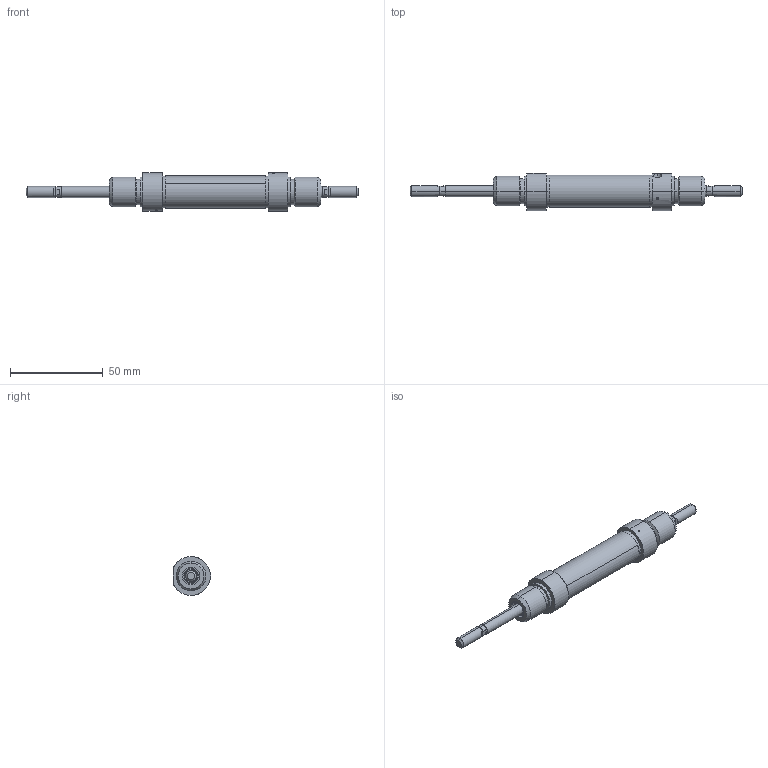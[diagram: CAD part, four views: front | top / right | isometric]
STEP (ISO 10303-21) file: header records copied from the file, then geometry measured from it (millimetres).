
FILE_DESCRIPTION (( 'STEP AP203' ), '1' );
FILE_NAME ('ML0160025A.step', '2012-10-17T16:35:04', ( '' ), ( '' ), 'SwSTEP 2.0', 'SolidWorks 2012', '' );
FILE_SCHEMA (( 'CONFIG_CONTROL_DESIGN' ));
Length unit declared in the file: millimetre
Products named in the file (1): ML0160025A
Bounding box: 179 x 20 x 21 mm (x, y, z)
Volume: 25012.4 mm3; surface area: 11185.4 mm2
Topology: 1 solids, 12 shells, 304 faces, 721 edges, 454 vertices
Faces by surface type: cylinder 129, plane 69, cone 57, torus 37, sphere 12
Entity records: 9341 total; most frequent: CARTESIAN_POINT 2196, DIRECTION 1580, ORIENTED_EDGE 1418, EDGE_CURVE 709, AXIS2_PLACEMENT_3D 682, VERTEX_POINT 450, CIRCLE 377, EDGE_LOOP 339
